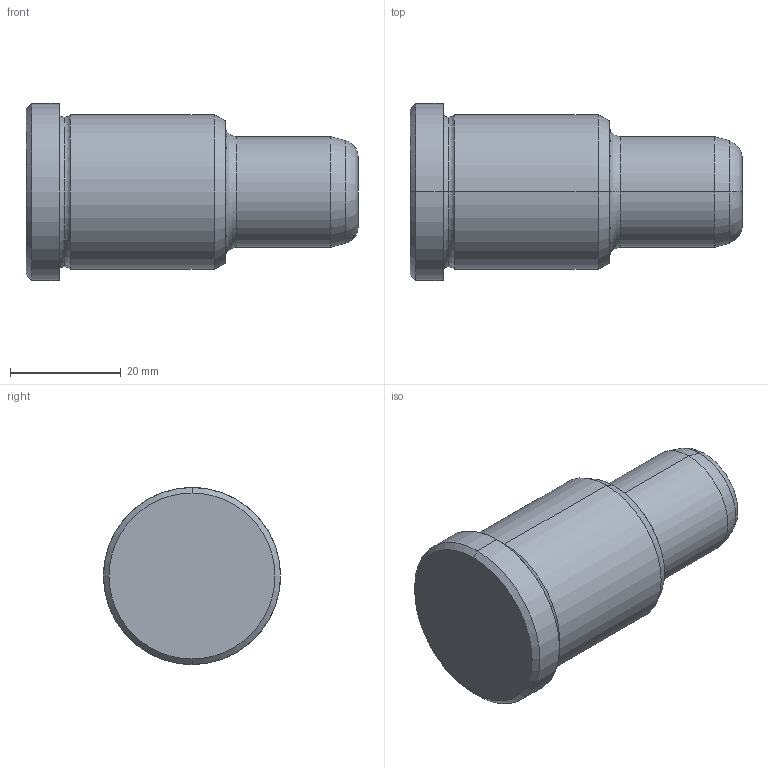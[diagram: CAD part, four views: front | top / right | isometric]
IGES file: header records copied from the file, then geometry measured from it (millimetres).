
Start section: START RECORD GO HERE.
Global section: file name: 351-20X36X60.igs; native system: DASSAULT SYSTEMES CATIA V5 R20 - www.3ds.com; preprocessor: CATIA Version 5 Release 20 ; author: Utente; organization: NB04-ASUS; date: 20210827.142834; units: millimetre
Bounding box: 60 x 32 x 32 mm (x, y, z)
Surface area: 6062.3 mm2 (no closed solid volume)
Topology: 0 solids, 0 shells, 24 faces, 140 edges, 140 vertices
Faces by surface type: revolution 20, plane 4
